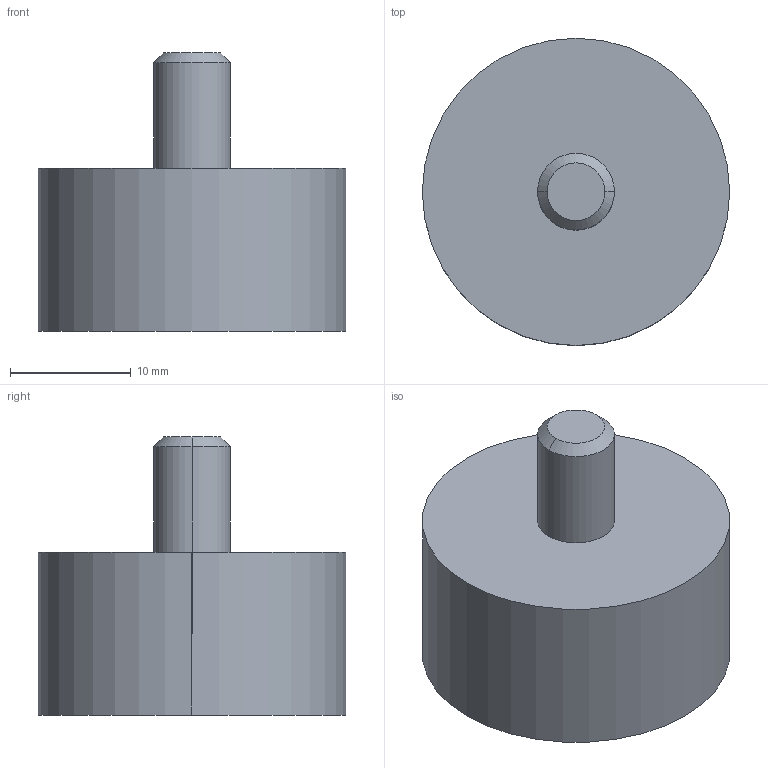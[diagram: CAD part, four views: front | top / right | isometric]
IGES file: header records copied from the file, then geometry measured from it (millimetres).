
Global section: file name: C:\Documents and Settings\Administrator\Desktop\Transfer Temp\pm-1420-45s.igs; native system: AutoDesk Inventor R2.0 ; preprocessor: AutoDesk Inventor Iges Exporter R2.0; author: No Author specified; organization: No Organization specified; date: 20011226.201356; units: inch
Bounding box: 25.4 x 25.4 x 22.99 mm (x, y, z)
Surface area: 2267.6 mm2 (no closed solid volume)
Topology: 0 solids, 0 shells, 9 faces, 32 edges, 32 vertices
Faces by surface type: revolution 6, bspline 3
